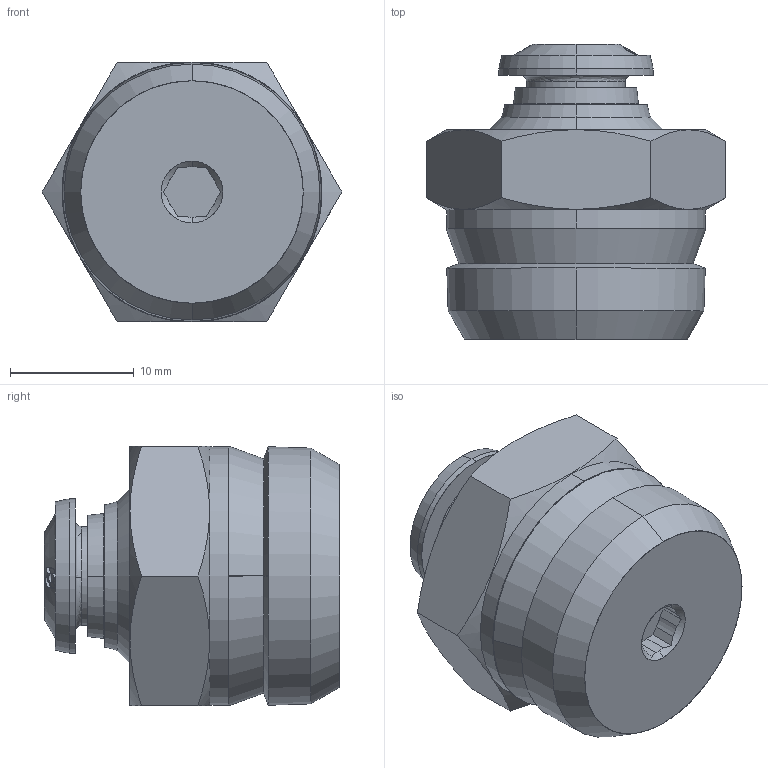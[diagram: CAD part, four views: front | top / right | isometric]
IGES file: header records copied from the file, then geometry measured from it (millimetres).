
Start section: SolidWorks IGES file using analytic representation for surfaces
Global section: file name: K:\Disegni Esecutivi\Serie 50000\ASSIEMI_50000\50000\ASSIEMI_.IGES_50000\5000000015A.IGS; native system: SolidWorks 2008; preprocessor: SolidWorks 2008; author: cad02; date: 081016.083152; units: millimetre
Bounding box: 24.25 x 23.9 x 21.03 mm (x, y, z)
Surface area: 2552.7 mm2 (no closed solid volume)
Topology: 0 solids, 0 shells, 152 faces, 1949 edges, 1948 vertices
Faces by surface type: bspline 82, revolution 70
